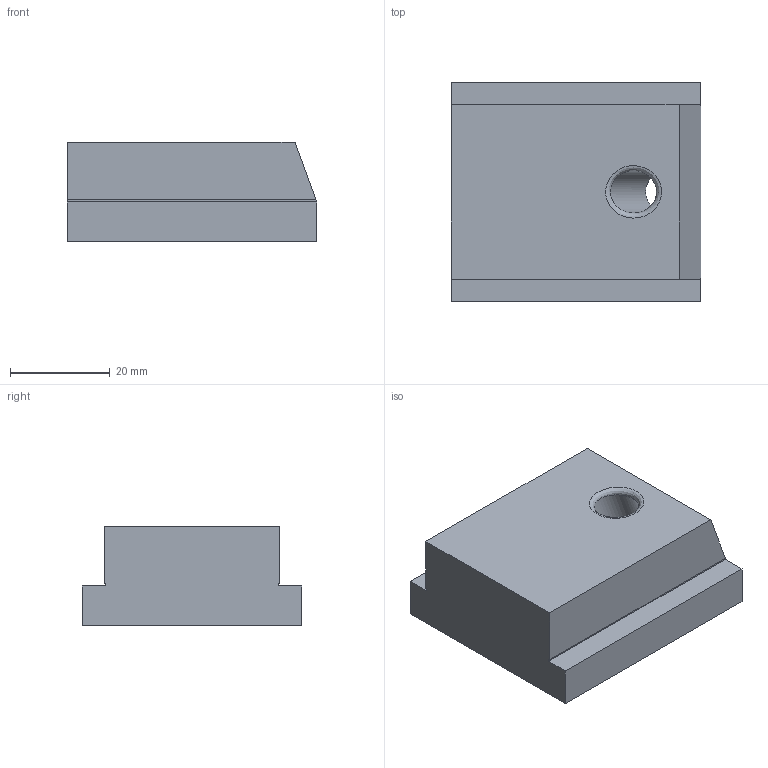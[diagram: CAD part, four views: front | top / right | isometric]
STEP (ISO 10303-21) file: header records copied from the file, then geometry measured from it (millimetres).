
FILE_DESCRIPTION (( 'STEP AP214' ), '1' );
FILE_NAME ('Schieber_-_H20 B35 L50.step', '2024-01-15T11:27:25', ( '' ), ( '' ), 'SwSTEP 2.0', 'SolidWorks 2020', '' );
FILE_SCHEMA (( 'AUTOMOTIVE_DESIGN' ));
Length unit declared in the file: millimetre
Products named in the file (1): Schieber_-_H20 B35 L50
Bounding box: 50 x 44 x 20 mm (x, y, z)
Volume: 36451.5 mm3; surface area: 8259.9 mm2
Topology: 1 solids, 1 shells, 210 faces, 564 edges, 375 vertices
Faces by surface type: plane 108, bspline 101, cylinder 1
Full cylindrical faces by diameter (mm): 8.5 x1
Entity records: 11894 total; most frequent: CARTESIAN_POINT 7303, ORIENTED_EDGE 1124, DIRECTION 579, EDGE_CURVE 562, VERTEX_POINT 375, VECTOR 359, LINE 359, EDGE_LOOP 233
